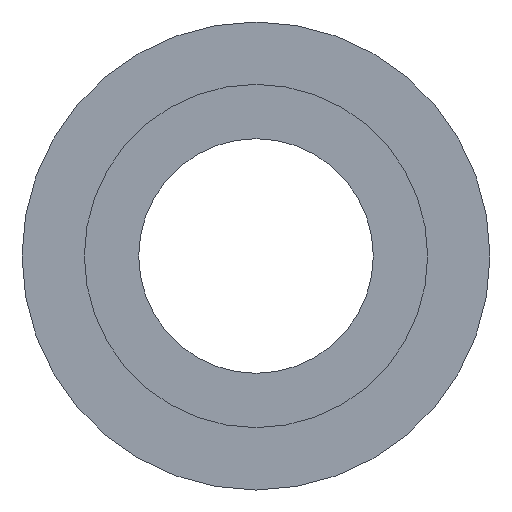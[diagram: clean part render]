
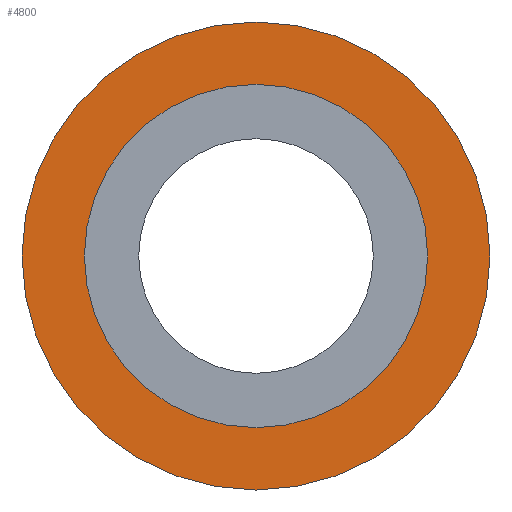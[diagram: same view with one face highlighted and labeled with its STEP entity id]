
A CAD part, left-side view. The second image highlights one B-rep face of the part: STEP entity #4800.
In plain terms, the highlighted planar face has unit normal (-1, 0, 0) as drawn and (1, 0, 0) by its records, which use the part's own axes.
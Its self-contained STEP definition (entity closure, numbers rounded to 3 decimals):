
#460=CARTESIAN_POINT('',(119.276,39.288,13.9));
#470=VERTEX_POINT('',#460);
#520=CARTESIAN_POINT('',(119.276,39.288,0.));
#530=DIRECTION('',(-1.,0.,0.));
#540=DIRECTION('',(0.,0.,-1.));
#550=AXIS2_PLACEMENT_3D('',#520,#530,#540);
#560=CIRCLE('',#550,13.9);
#570=CARTESIAN_POINT('',(119.276,39.288,-13.9));
#580=VERTEX_POINT('',#570);
#590=EDGE_CURVE('',#470,#580,#560,.T.);
#4280=CARTESIAN_POINT('',(119.276,58.238,0.));
#4290=VERTEX_POINT('',#4280);
#4510=CARTESIAN_POINT('',(119.276,20.338,0.));
#4520=VERTEX_POINT('',#4510);
#4550=CARTESIAN_POINT('',(119.276,39.288,0.));
#4560=DIRECTION('',(-1.,0.,0.));
#4570=DIRECTION('',(0.,-1.,0.));
#4580=AXIS2_PLACEMENT_3D('',#4550,#4560,#4570);
#4590=CIRCLE('',#4580,18.95);
#4600=EDGE_CURVE('',#4290,#4520,#4590,.T.);
#4650=CARTESIAN_POINT('',(119.276,56.963,0.));
#4660=DIRECTION('',(1.,0.,-0.));
#4670=DIRECTION('',(0.,1.,0.));
#4680=AXIS2_PLACEMENT_3D('',#4650,#4660,#4670);
#4690=PLANE('',#4680);
#4700=EDGE_CURVE('',#580,#470,#560,.T.);
#4710=ORIENTED_EDGE('',*,*,#4700,.T.);
#4720=ORIENTED_EDGE('',*,*,#590,.T.);
#4730=EDGE_LOOP('',(#4720,#4710));
#4740=FACE_BOUND('',#4730,.T.);
#4750=EDGE_CURVE('',#4520,#4290,#4590,.T.);
#4760=ORIENTED_EDGE('',*,*,#4750,.F.);
#4770=ORIENTED_EDGE('',*,*,#4600,.F.);
#4780=EDGE_LOOP('',(#4770,#4760));
#4790=FACE_OUTER_BOUND('',#4780,.T.);
#4800=ADVANCED_FACE('',(#4740,#4790),#4690,.T.);
